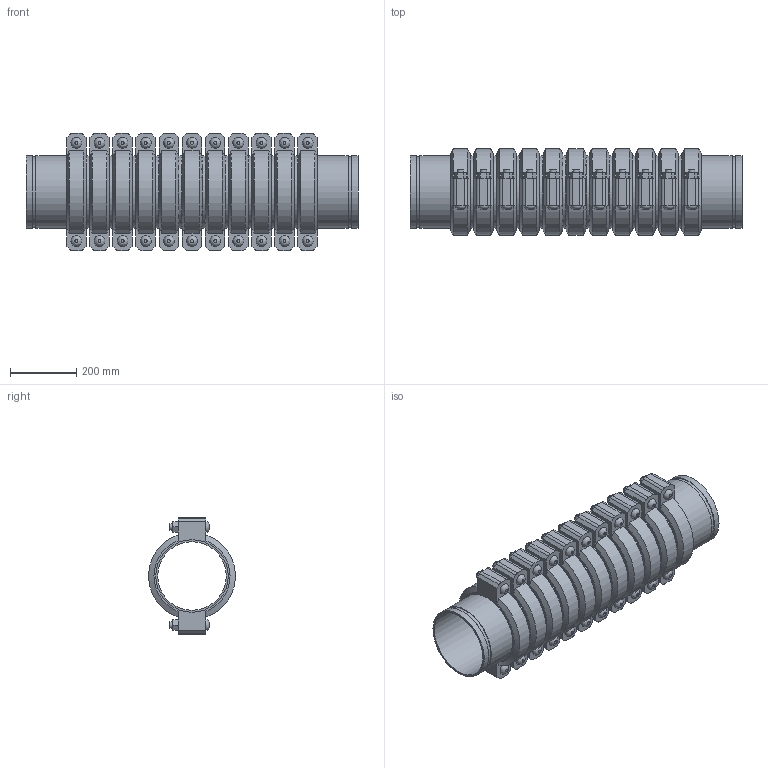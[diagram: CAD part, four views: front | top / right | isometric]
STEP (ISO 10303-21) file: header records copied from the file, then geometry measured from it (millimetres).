
FILE_DESCRIPTION(/* description */ ('VIC EXPANSION JOINT 11 COUPLINGS COMPRESSED STYLE 155 (OGS)','CAx-IF Rec.Pracs.---Representation and Presentation of Product Manufacturing Information (PMI)---4.0---2014-10-13'),/* implementation_level */ '2;1');
FILE_NAME(/* name */ 'C:\Users\kkamble\AppData\Roaming\Autodesk\ApplicationPlugins\Victaulic.Temp\A956\Victaulic_IPS_Expansion Joint_Compressed_11 Couplings_Style 155 (OGS)_8 (200).stp',/* time_stamp */ '2021-06-27T00:19:31+02:00',/* author */ ('kkamble'),/* organization */ ('Victaulic'),/* preprocessor_version */ 'ST-DEVELOPER v17.2',/* originating_system */ 'Autodesk Inventor 2019',/* authorisation */ '');
FILE_SCHEMA (('AP242_MANAGED_MODEL_BASED_3D_ENGINEERING_MIM_LF { 1 0 10303 442 1 1 4 }'));
Length unit declared in the file: inch
Products named in the file (4): 155-08.0; Nipple-08.0; Nipple-08.0_1; 075_11_Coup-08.0
Assembly tree (23 placements, depth 2):
  155-08.0
    Nipple-08.0  x2
    Nipple-08.0_1  x10
    075_11_Coup-08.0  x11
Bounding box: 1003.3 x 261.72 x 354.84 mm (x, y, z)
Volume: 18678691.4 mm3; surface area: 3377778.1 mm2
Topology: 23 solids, 45 shells, 771 faces, 1823 edges, 1278 vertices
Faces by surface type: plane 468, cylinder 237, cone 44, bspline 22
Full cylindrical faces by diameter (mm): 19.05 x44, 21.209 x22, 206.985 x12, 212.725 x11, 214.401 x24, 219.075 x58
Entity records: 2906 total; most frequent: CARTESIAN_POINT 507, DIRECTION 489, ORIENTED_EDGE 386, AXIS2_PLACEMENT_3D 198, EDGE_CURVE 193, VERTEX_POINT 138, EDGE_LOOP 107, LINE 93
